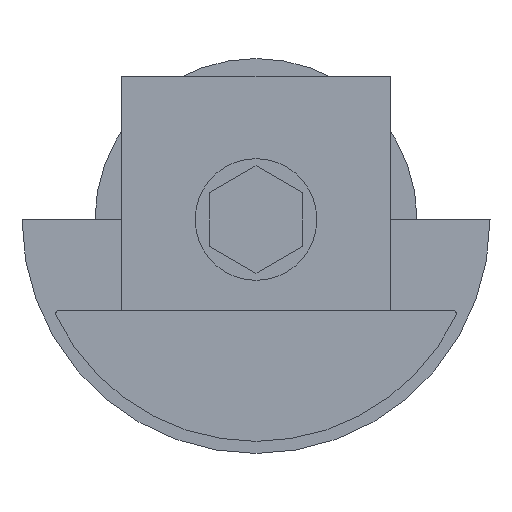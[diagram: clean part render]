
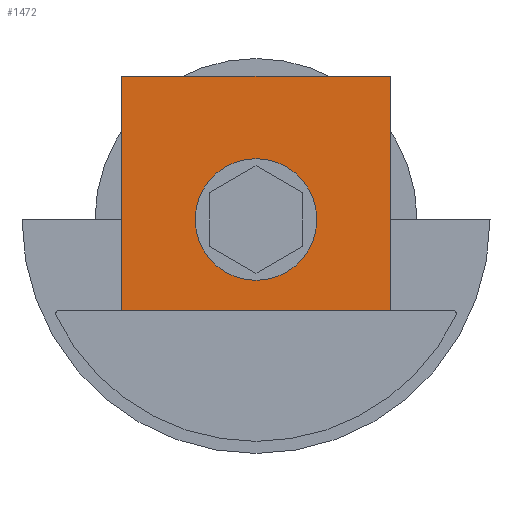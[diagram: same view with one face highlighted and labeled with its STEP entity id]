
A CAD part, left-side view. The second image highlights one B-rep face of the part: STEP entity #1472.
In plain terms, the highlighted planar face has unit normal (-1, 0, 0).
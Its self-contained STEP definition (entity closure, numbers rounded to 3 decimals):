
#93 = CARTESIAN_POINT ( 'NONE',  ( -155.5, -32.7, 28.7 ) ) ;
#105 = CARTESIAN_POINT ( 'NONE',  ( -155.5, -51.45, 52.7 ) ) ;
#122 = EDGE_CURVE ( 'NONE', #1762, #1663, #1588, .T. ) ;
#149 = FACE_OUTER_BOUND ( 'NONE', #803, .T. ) ;
#157 = CARTESIAN_POINT ( 'NONE',  ( -155.5, -60.696, 52.7 ) ) ;
#282 = DIRECTION ( 'NONE',  ( 1., 0., 0. ) ) ;
#311 = VERTEX_POINT ( 'NONE', #1838 ) ;
#331 = VECTOR ( 'NONE', #1417, 1000. ) ;
#355 = EDGE_CURVE ( 'NONE', #1154, #311, #1808, .T. ) ;
#400 = ORIENTED_EDGE ( 'NONE', *, *, #636, .F. ) ;
#422 = ORIENTED_EDGE ( 'NONE', *, *, #1678, .F. ) ;
#462 = ORIENTED_EDGE ( 'NONE', *, *, #122, .F. ) ;
#535 = DIRECTION ( 'NONE',  ( 0., 0., -1. ) ) ;
#558 = LINE ( 'NONE', #105, #1205 ) ;
#621 = CARTESIAN_POINT ( 'NONE',  ( -155.5, -32.7, 32.7 ) ) ;
#636 = EDGE_CURVE ( 'NONE', #1696, #1154, #558, .T. ) ;
#741 = CIRCLE ( 'NONE', #1720, 4. ) ;
#781 = DIRECTION ( 'NONE',  ( 0., 1., 0. ) ) ;
#803 = EDGE_LOOP ( 'NONE', ( #1807, #818, #891, #400 ) ) ;
#818 = ORIENTED_EDGE ( 'NONE', *, *, #1750, .F. ) ;
#866 = AXIS2_PLACEMENT_3D ( 'NONE', #1265, #1257, #967 ) ;
#891 = ORIENTED_EDGE ( 'NONE', *, *, #355, .F. ) ;
#908 = FACE_BOUND ( 'NONE', #1876, .T. ) ;
#939 = VERTEX_POINT ( 'NONE', #1291 ) ;
#967 = DIRECTION ( 'NONE',  ( 0., 0., -1. ) ) ;
#989 = VECTOR ( 'NONE', #1670, 1000. ) ;
#992 = LINE ( 'NONE', #1295, #331 ) ;
#1025 = DIRECTION ( 'NONE',  ( 0., -1., 0. ) ) ;
#1063 = CARTESIAN_POINT ( 'NONE',  ( -155.5, -60.696, 20. ) ) ;
#1110 = CARTESIAN_POINT ( 'NONE',  ( -155.5, -60.696, 52.7 ) ) ;
#1120 = CARTESIAN_POINT ( 'NONE',  ( -155.5, -51.45, 52.7 ) ) ;
#1125 = DIRECTION ( 'NONE',  ( 0., 0., -1. ) ) ;
#1154 = VERTEX_POINT ( 'NONE', #1512 ) ;
#1192 = EDGE_CURVE ( 'NONE', #1696, #939, #1692, .T. ) ;
#1205 = VECTOR ( 'NONE', #1125, 1000. ) ;
#1257 = DIRECTION ( 'NONE',  ( -1., 0., 0. ) ) ;
#1265 = CARTESIAN_POINT ( 'NONE',  ( -155.5, -32.7, 32.7 ) ) ;
#1291 = CARTESIAN_POINT ( 'NONE',  ( -155.5, -13.95, 52.7 ) ) ;
#1295 = CARTESIAN_POINT ( 'NONE',  ( -155.5, -13.95, 20. ) ) ;
#1417 = DIRECTION ( 'NONE',  ( 0., 0., 1. ) ) ;
#1472 = ADVANCED_FACE ( 'NONE', ( #908, #149 ), #1639, .F. ) ;
#1512 = CARTESIAN_POINT ( 'NONE',  ( -155.5, -51.45, 20. ) ) ;
#1555 = DIRECTION ( 'NONE',  ( -1., 0., 0. ) ) ;
#1588 = CIRCLE ( 'NONE', #866, 4. ) ;
#1639 = PLANE ( 'NONE',  #1884 ) ;
#1663 = VERTEX_POINT ( 'NONE', #1841 ) ;
#1670 = DIRECTION ( 'NONE',  ( 0., 1., 0. ) ) ;
#1678 = EDGE_CURVE ( 'NONE', #1663, #1762, #741, .T. ) ;
#1692 = LINE ( 'NONE', #1110, #1718 ) ;
#1696 = VERTEX_POINT ( 'NONE', #1120 ) ;
#1718 = VECTOR ( 'NONE', #781, 1000. ) ;
#1720 = AXIS2_PLACEMENT_3D ( 'NONE', #621, #1555, #535 ) ;
#1750 = EDGE_CURVE ( 'NONE', #311, #939, #992, .T. ) ;
#1762 = VERTEX_POINT ( 'NONE', #93 ) ;
#1807 = ORIENTED_EDGE ( 'NONE', *, *, #1192, .T. ) ;
#1808 = LINE ( 'NONE', #1063, #989 ) ;
#1838 = CARTESIAN_POINT ( 'NONE',  ( -155.5, -13.95, 20. ) ) ;
#1841 = CARTESIAN_POINT ( 'NONE',  ( -155.5, -32.7, 36.7 ) ) ;
#1876 = EDGE_LOOP ( 'NONE', ( #462, #422 ) ) ;
#1884 = AXIS2_PLACEMENT_3D ( 'NONE', #157, #282, #1025 ) ;
